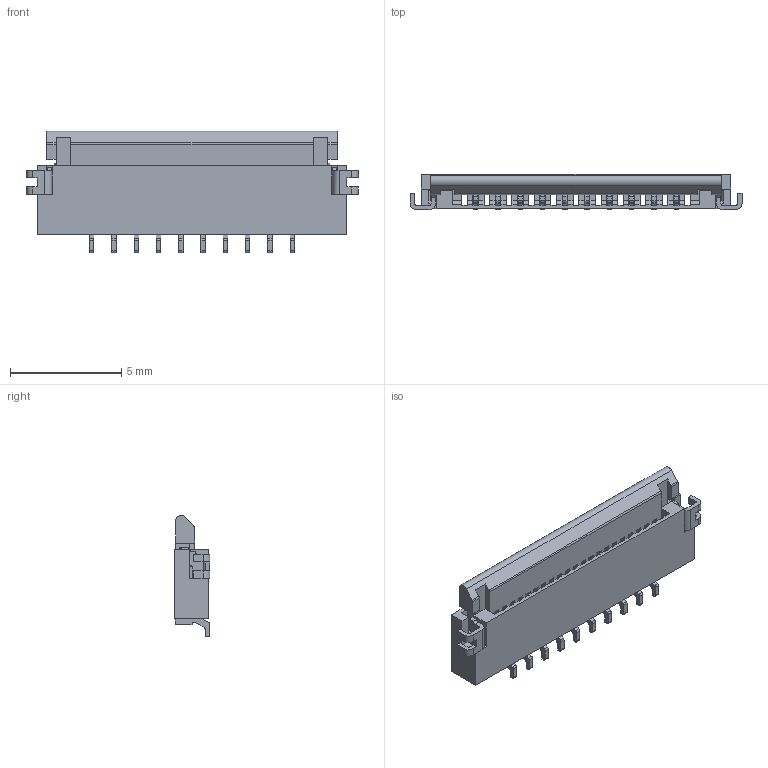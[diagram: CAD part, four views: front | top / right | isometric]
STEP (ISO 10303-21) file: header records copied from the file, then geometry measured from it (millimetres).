
FILE_DESCRIPTION((''),'2;1');
FILE_NAME('S-88185-10XX_ASM','2015-05-27T',('k55943'),(''),'PRO/ENGINEER BY PARAMETRIC TECHNOLOGY CORPORATION, 2009440','PRO/ENGINEER BY PARAMETRIC TECHNOLOGY CORPORATION, 2009440','');
FILE_SCHEMA(('CONFIG_CONTROL_DESIGN'));
Length unit declared in the file: millimetre
Products named in the file (1): S-88185-10XX_ASM
Bounding box: 14.9 x 1.6 x 5.45 mm (x, y, z)
Volume: 53.6 mm3; surface area: 413.4 mm2
Topology: 1 solids, 1 shells, 1110 faces, 3532 edges, 2340 vertices
Faces by surface type: plane 817, cylinder 293
Entity records: 39161 total; most frequent: ORIENTED_EDGE 7064, CARTESIAN_POINT 6987, DIRECTION 6412, EDGE_CURVE 3532, VECTOR 2868, LINE 2868, VERTEX_POINT 2340, AXIS2_PLACEMENT_3D 1772
